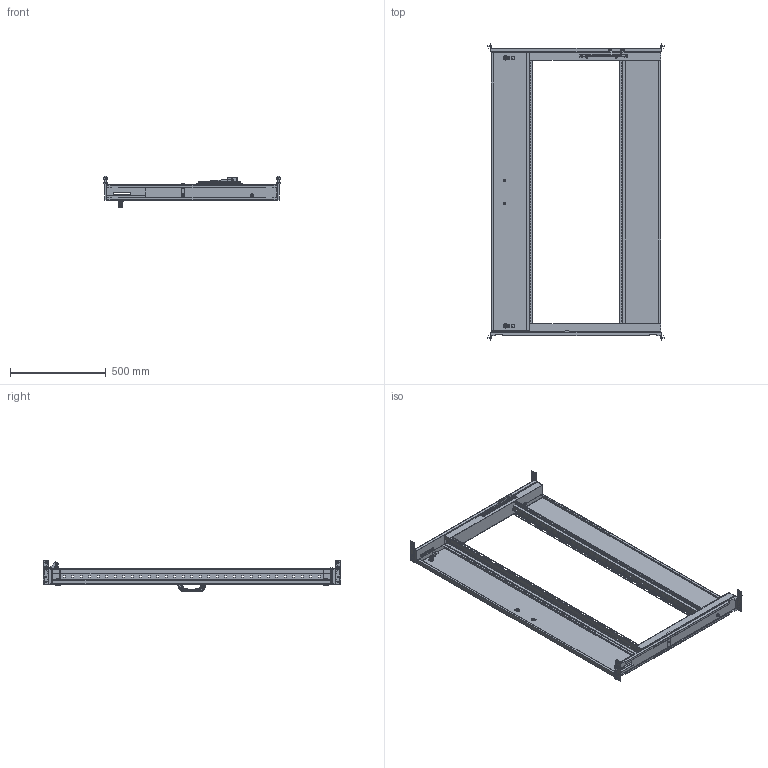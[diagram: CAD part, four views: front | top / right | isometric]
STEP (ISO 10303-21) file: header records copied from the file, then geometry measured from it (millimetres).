
FILE_DESCRIPTION(('Open CASCADE Model'),'2;1');
FILE_NAME('Open CASCADE Shape Model','2025-03-20T11:28:55',('Author'),( 'Open CASCADE'),'Open CASCADE STEP processor 7.8','Open CASCADE 7.8' ,'Unknown');
FILE_SCHEMA(('AUTOMOTIVE_DESIGN { 1 0 10303 214 1 1 1 1 }'));
Length unit declared in the file: millimetre
Products named in the file (36): Compound1; Compound2; Solid1; Solid2; Solid3; Compound3; Solid4; Solid5; Solid6; Solid7; Solid8; Solid9; Solid10; Solid11; Solid12; Solid13; Solid14; Solid15; Solid16; Solid17; Solid18; Compound4; Solid19; Solid20; Solid21; Solid22; Solid23; Solid24; Solid25; Solid26; Solid27; Compound5; Solid28; Solid29; Solid30; Solid31
Assembly tree (57 placements, depth 3):
  Compound1
    Compound2
      Solid1
      Solid2  x2
      Solid3
    Compound3
      Solid4
      Solid2  x2
      Solid3
    Solid5  x2
    Solid6  x2
    Solid7
    Solid8
    Solid9
    Solid10
    Solid11
    Solid12
    Solid13  x2
    Solid14  x4
    Solid15  x8
    Solid16
    Solid17  x2
    Solid18  x2
    Compound4
      Solid19
      Solid20
      Solid21
      Solid22  x2
      Solid23
      Solid24
      Solid25
      Solid26  x2
      Solid27  x2
    Compound5
      Solid28
      Solid29
    Solid30
    Solid31
Bounding box: 926 x 1555 x 165.5 mm (x, y, z)
Volume: 2849171.6 mm3; surface area: 3615706.7 mm2
Topology: 55 solids, 73 shells, 5597 faces, 15606 edges, 10089 vertices
Faces by surface type: plane 3520, cylinder 714, bspline 670, cone 439, torus 176, sphere 78
Entity records: 167927 total; most frequent: CARTESIAN_POINT 56013, ORIENTED_EDGE 24522, DIRECTION 20021, EDGE_CURVE 12431, LINE 8985, VECTOR 8985, VERTEX_POINT 8077, AXIS2_PLACEMENT_3D 5518
